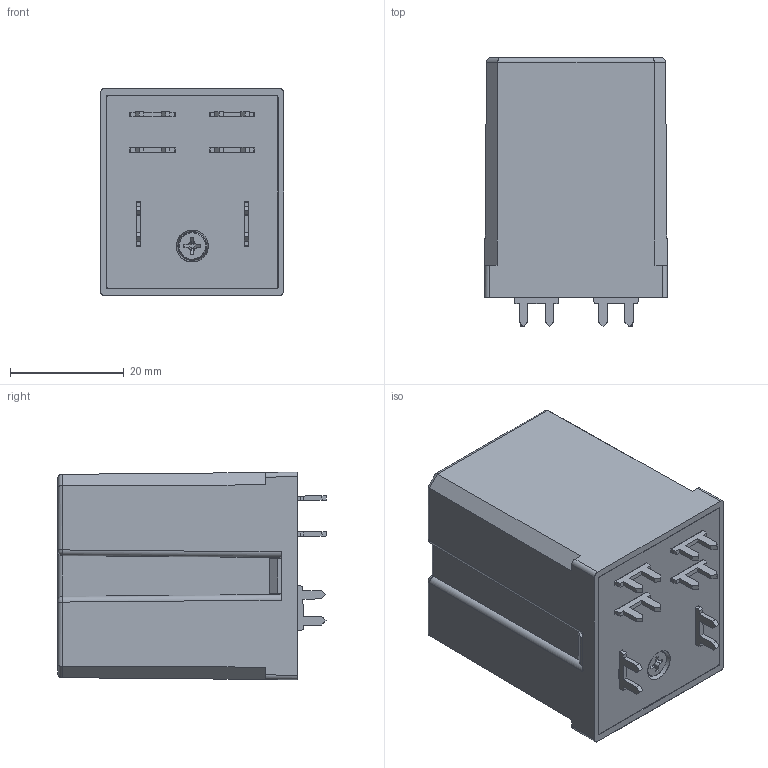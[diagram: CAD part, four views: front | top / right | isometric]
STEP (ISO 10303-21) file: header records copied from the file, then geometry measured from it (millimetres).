
FILE_DESCRIPTION(('STEP AP214'),'2;1');
FILE_NAME('6561.stp','2011-05-19T15:55:56',(''),(''),'2007.1.106','THINKDESIGN','');
FILE_SCHEMA(('AUTOMOTIVE_DESIGN'));
Length unit declared in the file: millimetre
Products named in the file (1): None
Bounding box: 32.3 x 47.25 x 36.5 mm (x, y, z)
Surface area: 8320.9 mm2 (no closed solid volume)
Topology: 0 solids, 0 shells, 183 faces, 1026 edges, 1058 vertices
Faces by surface type: plane 111, bspline 50, cylinder 22
Full cylindrical faces by diameter (mm): 2 x1, 5 x1
Entity records: 11782 total; most frequent: CARTESIAN_POINT 4489, DIRECTION 1056, COMPOSITE_CURVE_SEGMENT 990, TRIMMED_CURVE 778, VECTOR 774, LINE 774, STYLED_ITEM 219, PRESENTATION_STYLE_ASSIGNMENT 219
